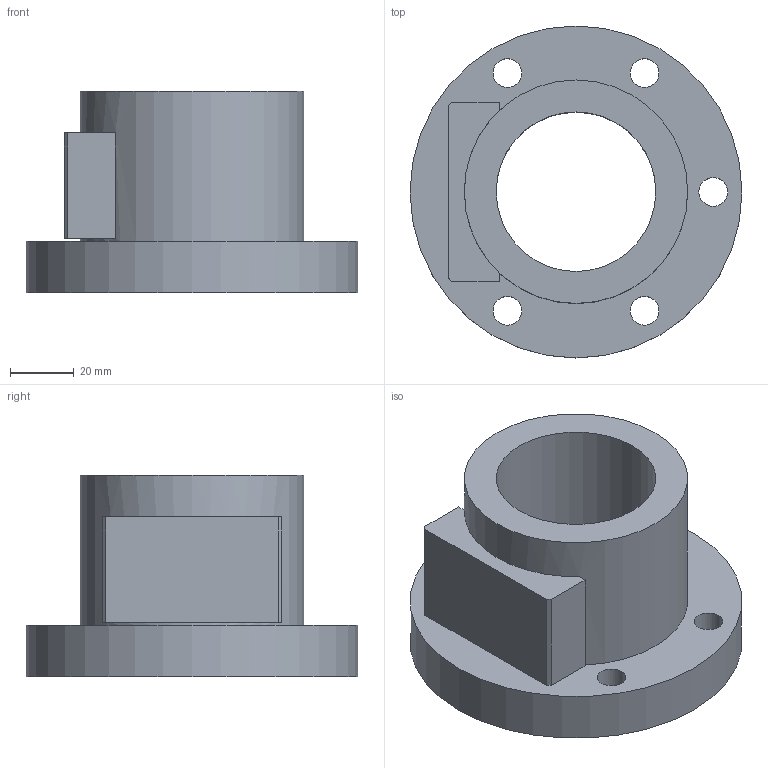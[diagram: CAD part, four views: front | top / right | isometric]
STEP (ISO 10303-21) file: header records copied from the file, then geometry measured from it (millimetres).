
FILE_DESCRIPTION(/* description */ (''),/* implementation_level */ '2;1');
FILE_NAME(/* name */ '50-5A2',/* time_stamp */ '2006-07-31T11:50:40+08:00',/* author */ (''),/* organization */ (''),/* preprocessor_version */ 'ST-DEVELOPER v9',/* originating_system */ 'UGS - NX 4.0',/* authorisation */ '');
FILE_SCHEMA (('CONFIG_CONTROL_DESIGN'));
Length unit declared in the file: millimetre
Products named in the file (1): 50-5A2
Bounding box: 104 x 104 x 63 mm (x, y, z)
Volume: 200923.5 mm3; surface area: 42979.9 mm2
Topology: 1 solids, 1 shells, 30 faces, 67 edges, 46 vertices
Faces by surface type: plane 17, cylinder 13
Full cylindrical faces by diameter (mm): 9 x5, 14 x5, 50 x1, 70 x1, 104 x1
Entity records: 860 total; most frequent: DIRECTION 140, CARTESIAN_POINT 123, ORIENTED_EDGE 100, EDGE_LOOP 62, AXIS2_PLACEMENT_3D 59, EDGE_CURVE 50, FACE_BOUND 45, VERTEX_POINT 42
